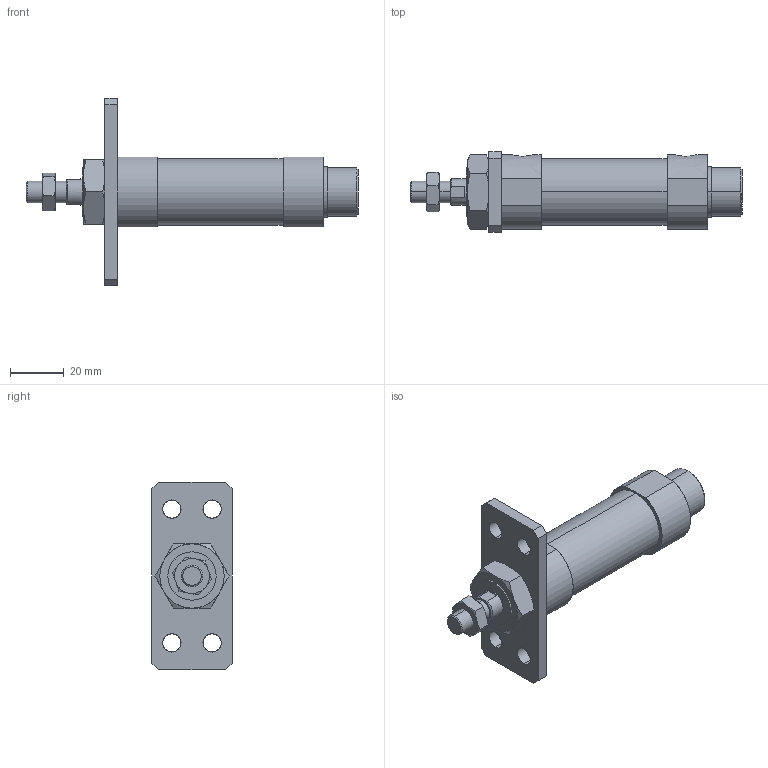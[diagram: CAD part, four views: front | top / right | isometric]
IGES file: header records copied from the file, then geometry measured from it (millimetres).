
Start section: SolidWorks IGES file using analytic representation for surfaces
Global section: file name: C:\Users\Toshiba\Desktop\J#2-20-15-A.IGS; native system: SolidWorks 2014; preprocessor: SolidWorks 2014; author: Toshiba; date: 160308.145102; units: millimetre
Bounding box: 124 x 30 x 70 mm (x, y, z)
Surface area: 17464.1 mm2 (no closed solid volume)
Topology: 0 solids, 0 shells, 112 faces, 2028 edges, 2028 vertices
Faces by surface type: bspline 70, revolution 42
